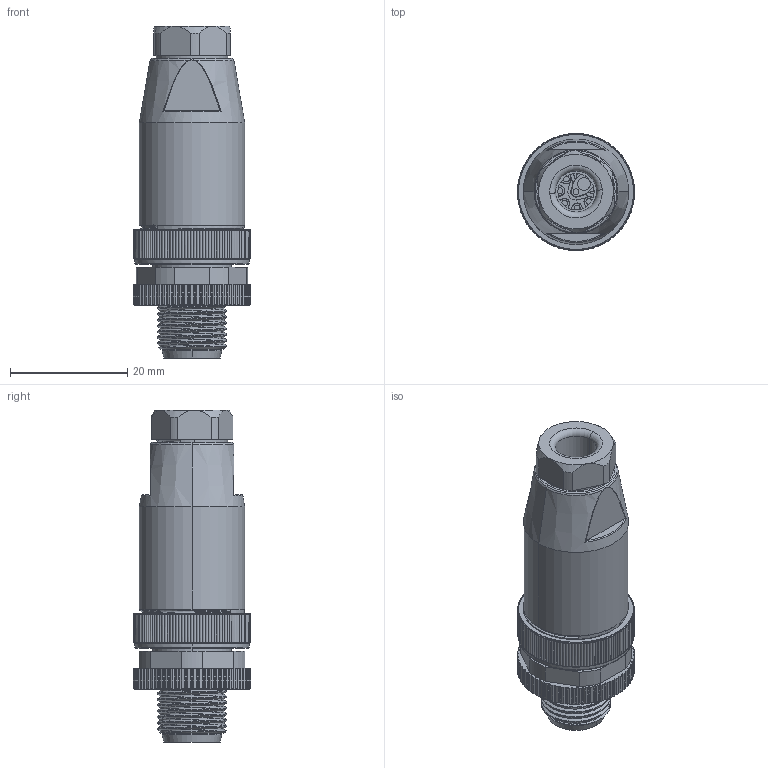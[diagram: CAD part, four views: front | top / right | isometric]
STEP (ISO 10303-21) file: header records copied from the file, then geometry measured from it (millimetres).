
FILE_DESCRIPTION((''),'2;1');
FILE_NAME('XC-M12-WK-PG7','2025-06-23T10:13:45',('lyj'),(''),'CREO PARAMETRIC BY PTC INC, 2019010','CREO PARAMETRIC BY PTC INC, 2019010','');
FILE_SCHEMA(('CONFIG_CONTROL_DESIGN'));
Products named in the file (1): XC-M12-WK-PG7
Bounding box: 20 x 20 x 56.7 mm (x, y, z)
Volume: 8345.2 mm3; surface area: 12188.8 mm2
Topology: 1 solids, 26 shells, 1686 faces, 4685 edges, 3072 vertices
Faces by surface type: cylinder 751, plane 403, cone 354, bspline 94, extrusion 56, sphere 16, torus 12
Entity records: 87784 total; most frequent: CARTESIAN_POINT 46501, ORIENTED_EDGE 9338, DIRECTION 7715, EDGE_CURVE 4669, VERTEX_POINT 3072, AXIS2_PLACEMENT_3D 2995, EDGE_LOOP 1791, VECTOR 1725
